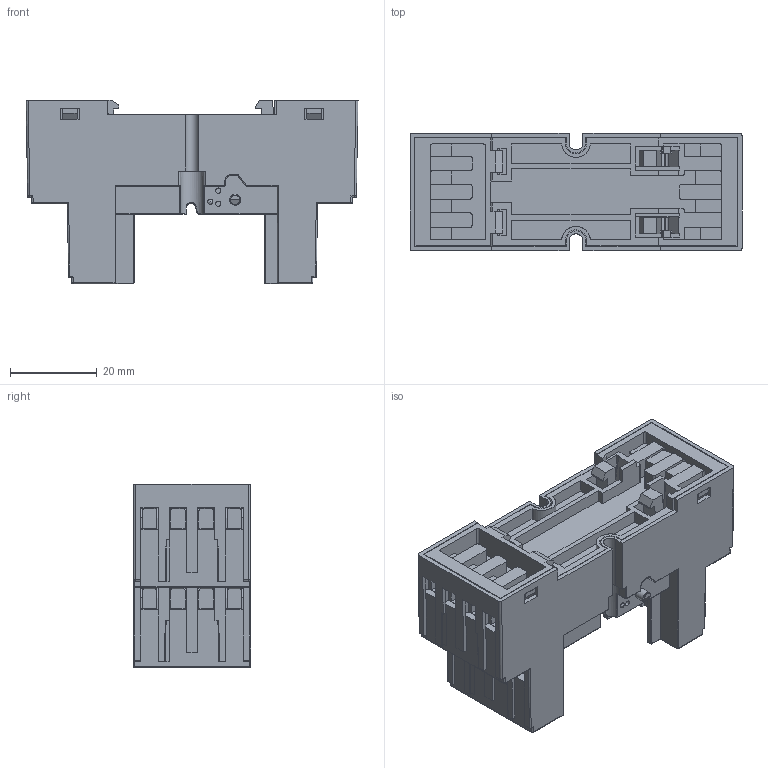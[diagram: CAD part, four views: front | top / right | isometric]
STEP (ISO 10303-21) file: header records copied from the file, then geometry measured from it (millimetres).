
FILE_DESCRIPTION(('STEP AP214'),'2;1');
FILE_NAME('94_84_2_.stp','2011-11-30T16:37:12',(''),(''),'2007.1.106','THINKDESIGN','');
FILE_SCHEMA(('AUTOMOTIVE_DESIGN'));
Products named in the file (1): None
Bounding box: 76.4 x 27 x 42.31 mm (x, y, z)
Surface area: 24543.1 mm2 (no closed solid volume)
Topology: 0 solids, 0 shells, 1208 faces, 6634 edges, 6542 vertices
Faces by surface type: plane 858, cylinder 250, bspline 100
Full cylindrical faces by diameter (mm): 1.2 x6, 2.5 x2, 2.8 x14, 3.6 x2, 4.5 x1, 4.7 x14, 5.3 x14
Entity records: 71201 total; most frequent: CARTESIAN_POINT 23404, DIRECTION 8274, COMPOSITE_CURVE_SEGMENT 6610, TRIMMED_CURVE 5504, VECTOR 5102, LINE 5102, AXIS2_PLACEMENT_3D 1586, OUTER_BOUNDARY_CURVE 1208
